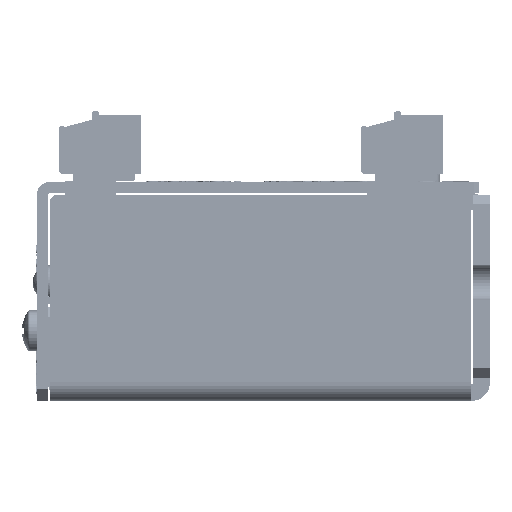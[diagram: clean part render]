
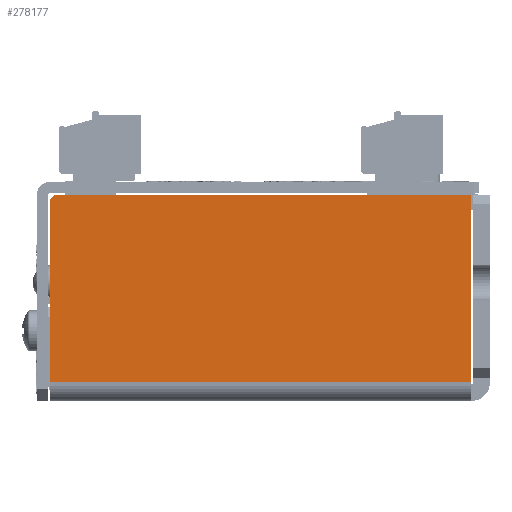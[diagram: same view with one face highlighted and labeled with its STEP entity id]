
A CAD part, left-side view. The second image highlights one B-rep face of the part: STEP entity #278177.
In plain terms, the highlighted planar face has unit normal (-1, 0, 0).
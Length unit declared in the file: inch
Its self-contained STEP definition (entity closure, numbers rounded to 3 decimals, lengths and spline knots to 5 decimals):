
#3252 = DIRECTION ( 'NONE',  ( 0., 0., -1. ) ) ;
#3526 = DIRECTION ( 'NONE',  ( 0., 0., 1. ) ) ;
#23730 = DIRECTION ( 'NONE',  ( 0., 1., 0. ) ) ;
#30548 = CARTESIAN_POINT ( 'NONE',  ( -5., 2.35, 0.1 ) ) ;
#32999 = EDGE_CURVE ( 'NONE', #209736, #332110, #314606, .T. ) ;
#41720 = CARTESIAN_POINT ( 'NONE',  ( -5., 0.1, 1.1 ) ) ;
#44444 = VECTOR ( 'NONE', #3252, 39.37008 ) ;
#58118 = ORIENTED_EDGE ( 'NONE', *, *, #151213, .F. ) ;
#68138 = EDGE_CURVE ( 'NONE', #111737, #199108, #115732, .T. ) ;
#72454 = VECTOR ( 'NONE', #23730, 39.37008 ) ;
#77018 = VECTOR ( 'NONE', #331391, 39.37008 ) ;
#91569 = CARTESIAN_POINT ( 'NONE',  ( -5., 0., 0. ) ) ;
#92172 = EDGE_CURVE ( 'NONE', #199108, #209736, #286137, .T. ) ;
#103914 = ORIENTED_EDGE ( 'NONE', *, *, #32999, .F. ) ;
#111737 = VERTEX_POINT ( 'NONE', #41720 ) ;
#115732 = LINE ( 'NONE', #294983, #44444 ) ;
#118398 = DIRECTION ( 'NONE',  ( 0., 0., -1. ) ) ;
#120907 = DIRECTION ( 'NONE',  ( 0., -1., 0. ) ) ;
#128820 = CARTESIAN_POINT ( 'NONE',  ( -5., 0.1, 0.1 ) ) ;
#148189 = LINE ( 'NONE', #223771, #77018 ) ;
#151213 = EDGE_CURVE ( 'NONE', #201742, #111737, #162639, .T. ) ;
#162639 = LINE ( 'NONE', #281396, #305115 ) ;
#168947 = PLANE ( 'NONE',  #340345 ) ;
#199108 = VERTEX_POINT ( 'NONE', #128820 ) ;
#201742 = VERTEX_POINT ( 'NONE', #337440 ) ;
#204242 = EDGE_CURVE ( 'NONE', #201742, #332110, #148189, .T. ) ;
#209736 = VERTEX_POINT ( 'NONE', #30548 ) ;
#223381 = EDGE_LOOP ( 'NONE', ( #58118, #243662, #103914, #282424, #335773 ) ) ;
#223771 = CARTESIAN_POINT ( 'NONE',  ( -5., 2.35, 1.075 ) ) ;
#243450 = VECTOR ( 'NONE', #3526, 39.37008 ) ;
#243662 = ORIENTED_EDGE ( 'NONE', *, *, #204242, .T. ) ;
#278177 = ADVANCED_FACE ( 'NONE', ( #295759 ), #168947, .F. ) ;
#278924 = DIRECTION ( 'NONE',  ( 1., 0., 0. ) ) ;
#281396 = CARTESIAN_POINT ( 'NONE',  ( -5., 2.35, 1.1 ) ) ;
#282424 = ORIENTED_EDGE ( 'NONE', *, *, #92172, .F. ) ;
#286137 = LINE ( 'NONE', #344732, #72454 ) ;
#294983 = CARTESIAN_POINT ( 'NONE',  ( -5., 0.1, 1.1 ) ) ;
#295759 = FACE_OUTER_BOUND ( 'NONE', #223381, .T. ) ;
#297571 = CARTESIAN_POINT ( 'NONE',  ( -5., 2.35, 0.09 ) ) ;
#305115 = VECTOR ( 'NONE', #120907, 39.37008 ) ;
#314606 = LINE ( 'NONE', #297571, #243450 ) ;
#331391 = DIRECTION ( 'NONE',  ( 0., 0.707, -0.707 ) ) ;
#332110 = VERTEX_POINT ( 'NONE', #336600 ) ;
#335773 = ORIENTED_EDGE ( 'NONE', *, *, #68138, .F. ) ;
#336600 = CARTESIAN_POINT ( 'NONE',  ( -5., 2.35, 1.075 ) ) ;
#337440 = CARTESIAN_POINT ( 'NONE',  ( -5., 2.325, 1.1 ) ) ;
#340345 = AXIS2_PLACEMENT_3D ( 'NONE', #91569, #278924, #118398 ) ;
#344732 = CARTESIAN_POINT ( 'NONE',  ( -5., 2.35, 0.1 ) ) ;
